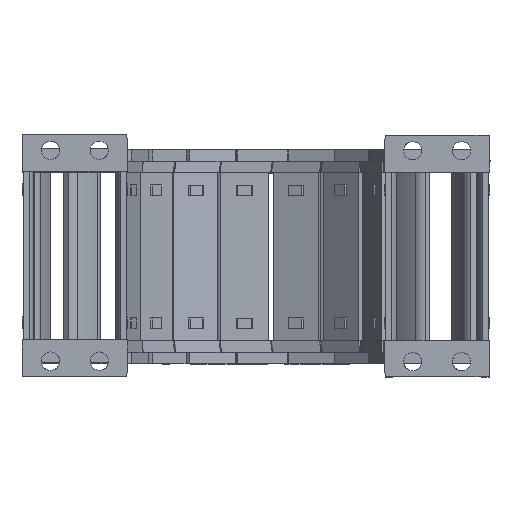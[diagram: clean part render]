
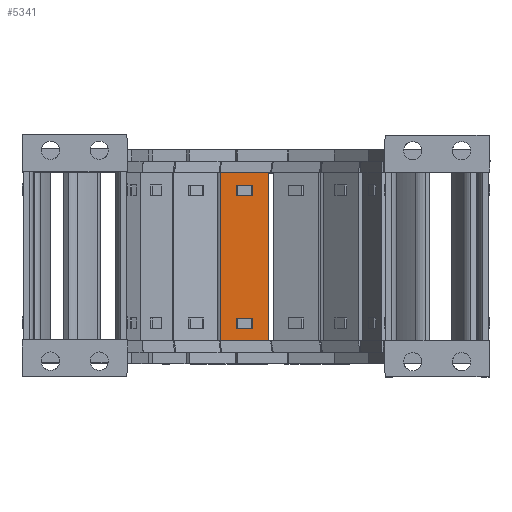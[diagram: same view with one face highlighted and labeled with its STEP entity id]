
A CAD part, top view. The second image highlights one B-rep face of the part: STEP entity #5341.
In plain terms, the highlighted planar face has unit normal (0.035, 0, 0.999).
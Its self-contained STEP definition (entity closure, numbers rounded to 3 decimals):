
#293=FACE_BOUND('',#15295,.T.);
#294=FACE_BOUND('',#15296,.T.);
#295=FACE_BOUND('',#15297,.T.);
#5341=ADVANCED_FACE('',(#293,#294,#295),#8414,.F.);
#8414=PLANE('',#76721);
#15295=EDGE_LOOP('',(#41093,#41094,#41095,#41096));
#15296=EDGE_LOOP('',(#41097,#41098,#41099,#41100));
#15297=EDGE_LOOP('',(#41101,#41102,#41103,#41104));
#21407=LINE('',#117715,#27585);
#21409=LINE('',#117719,#27587);
#21411=LINE('',#117723,#27589);
#21412=LINE('',#117725,#27590);
#21419=LINE('',#117740,#27597);
#21421=LINE('',#117744,#27599);
#21423=LINE('',#117748,#27601);
#21424=LINE('',#117750,#27602);
#21425=LINE('',#117752,#27603);
#21426=LINE('',#117755,#27604);
#21427=LINE('',#117757,#27605);
#21428=LINE('',#117759,#27606);
#27585=VECTOR('',#90400,1.);
#27587=VECTOR('',#90404,1.);
#27589=VECTOR('',#90408,1.);
#27590=VECTOR('',#90411,1.);
#27597=VECTOR('',#90422,1.);
#27599=VECTOR('',#90426,1.);
#27601=VECTOR('',#90430,1.);
#27602=VECTOR('',#90433,1.);
#27603=VECTOR('',#90436,1.);
#27604=VECTOR('',#90437,1.);
#27605=VECTOR('',#90438,1.);
#27606=VECTOR('',#90439,1.);
#41093=ORIENTED_EDGE('',*,*,#65015,.F.);
#41094=ORIENTED_EDGE('',*,*,#65013,.F.);
#41095=ORIENTED_EDGE('',*,*,#65011,.T.);
#41096=ORIENTED_EDGE('',*,*,#65016,.T.);
#41097=ORIENTED_EDGE('',*,*,#65027,.F.);
#41098=ORIENTED_EDGE('',*,*,#65025,.T.);
#41099=ORIENTED_EDGE('',*,*,#65023,.T.);
#41100=ORIENTED_EDGE('',*,*,#65028,.F.);
#41101=ORIENTED_EDGE('',*,*,#65029,.F.);
#41102=ORIENTED_EDGE('',*,*,#65030,.F.);
#41103=ORIENTED_EDGE('',*,*,#65031,.T.);
#41104=ORIENTED_EDGE('',*,*,#65032,.T.);
#56103=VERTEX_POINT('',#117712);
#56104=VERTEX_POINT('',#117714);
#56105=VERTEX_POINT('',#117718);
#56106=VERTEX_POINT('',#117722);
#56111=VERTEX_POINT('',#117737);
#56112=VERTEX_POINT('',#117739);
#56113=VERTEX_POINT('',#117743);
#56114=VERTEX_POINT('',#117747);
#56115=VERTEX_POINT('',#117753);
#56116=VERTEX_POINT('',#117754);
#56117=VERTEX_POINT('',#117756);
#56118=VERTEX_POINT('',#117758);
#65011=EDGE_CURVE('',#56103,#56104,#21407,.T.);
#65013=EDGE_CURVE('',#56103,#56105,#21409,.T.);
#65015=EDGE_CURVE('',#56105,#56106,#21411,.T.);
#65016=EDGE_CURVE('',#56104,#56106,#21412,.T.);
#65023=EDGE_CURVE('',#56111,#56112,#21419,.T.);
#65025=EDGE_CURVE('',#56113,#56111,#21421,.T.);
#65027=EDGE_CURVE('',#56113,#56114,#21423,.T.);
#65028=EDGE_CURVE('',#56114,#56112,#21424,.T.);
#65029=EDGE_CURVE('',#56115,#56116,#21425,.T.);
#65030=EDGE_CURVE('',#56117,#56115,#21426,.T.);
#65031=EDGE_CURVE('',#56117,#56118,#21427,.T.);
#65032=EDGE_CURVE('',#56118,#56116,#21428,.T.);
#76721=AXIS2_PLACEMENT_3D('',#117760,#90440,#90441);
#90400=DIRECTION('',(0.,1.,0.));
#90404=DIRECTION('',(0.999,0.,-0.035));
#90408=DIRECTION('',(0.,1.,0.));
#90411=DIRECTION('',(0.999,0.,-0.035));
#90422=DIRECTION('',(0.,-1.,0.));
#90426=DIRECTION('',(0.999,0.,-0.035));
#90430=DIRECTION('',(0.,-1.,0.));
#90433=DIRECTION('',(0.999,0.,-0.035));
#90436=DIRECTION('',(0.,1.,0.));
#90437=DIRECTION('',(-0.999,0.,0.035));
#90438=DIRECTION('',(0.,1.,0.));
#90439=DIRECTION('',(-0.999,0.,0.035));
#90440=DIRECTION('',(-0.035,0.,-0.999));
#90441=DIRECTION('',(-0.999,0.,0.035));
#117712=CARTESIAN_POINT('',(-65.615,-51.,-62.316));
#117714=CARTESIAN_POINT('',(-65.615,-47.5,-62.316));
#117715=CARTESIAN_POINT('',(-65.615,2.24,-62.316));
#117718=CARTESIAN_POINT('',(-60.267,-51.,-62.503));
#117719=CARTESIAN_POINT('',(-65.615,-51.,-62.316));
#117722=CARTESIAN_POINT('',(-60.267,-47.5,-62.503));
#117723=CARTESIAN_POINT('',(-60.267,-29.5,-62.503));
#117725=CARTESIAN_POINT('',(-65.615,-47.5,-62.316));
#117737=CARTESIAN_POINT('',(-60.267,-4.,-62.503));
#117739=CARTESIAN_POINT('',(-60.267,-7.5,-62.503));
#117740=CARTESIAN_POINT('',(-60.267,-4.,-62.503));
#117743=CARTESIAN_POINT('',(-65.615,-4.,-62.316));
#117744=CARTESIAN_POINT('',(-65.615,-4.,-62.316));
#117747=CARTESIAN_POINT('',(-65.615,-7.5,-62.316));
#117748=CARTESIAN_POINT('',(-65.615,-4.,-62.316));
#117750=CARTESIAN_POINT('',(-65.615,-7.5,-62.316));
#117752=CARTESIAN_POINT('',(-70.836,-25.26,-62.134));
#117753=CARTESIAN_POINT('',(-70.836,-55.,-62.134));
#117754=CARTESIAN_POINT('',(-70.836,0.,-62.134));
#117755=CARTESIAN_POINT('',(-73.083,-55.,-62.056));
#117756=CARTESIAN_POINT('',(-55.046,-55.,-62.685));
#117757=CARTESIAN_POINT('',(-55.046,-25.5,-62.685));
#117758=CARTESIAN_POINT('',(-55.046,0.,-62.685));
#117759=CARTESIAN_POINT('',(-55.046,0.,-62.685));
#117760=CARTESIAN_POINT('',(-52.887,31.74,-62.761));
